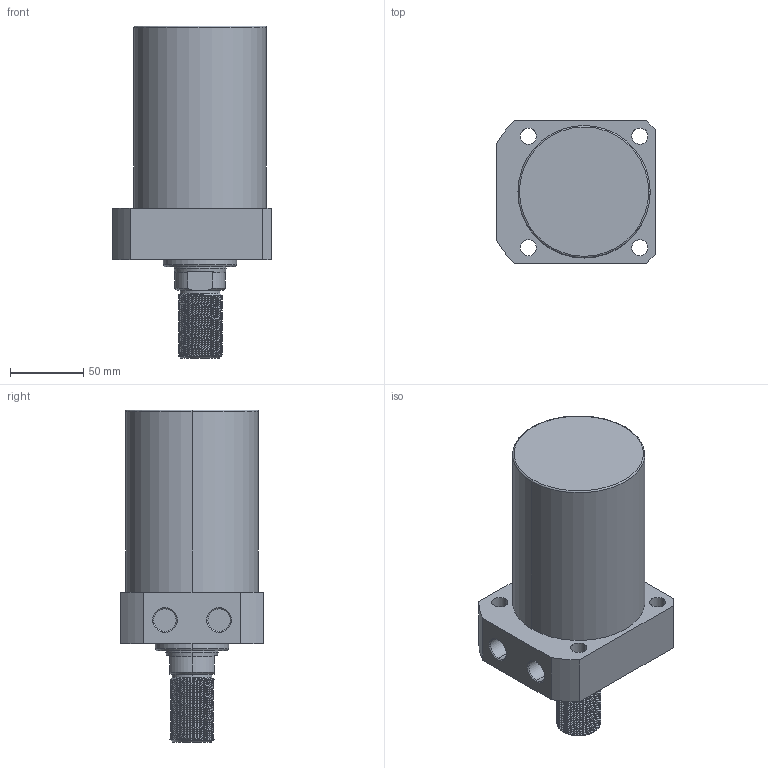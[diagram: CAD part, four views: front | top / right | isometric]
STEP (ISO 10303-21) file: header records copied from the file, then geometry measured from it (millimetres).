
FILE_DESCRIPTION (( 'STEP AP214' ), '1' );
FILE_NAME ('CLLR-090CT-080.STEP', '2020-01-10T01:50:20', ( 'Windows' ), ( 'Microsoft' ), 'SwSTEP 2.0', 'SolidWorks 2015', '' );
FILE_SCHEMA (( 'AUTOMOTIVE_DESIGN' ));
Length unit declared in the file: millimetre
Products named in the file (1): CLLR-090CT-080
Bounding box: 108 x 97 x 226 mm (x, y, z)
Volume: 1182775.7 mm3; surface area: 84005.1 mm2
Topology: 1 solids, 1 shells, 125 faces, 331 edges, 216 vertices
Faces by surface type: cylinder 85, plane 20, cone 16, torus 2, bspline 2
Entity records: 7034 total; most frequent: CARTESIAN_POINT 4138, ORIENTED_EDGE 662, DIRECTION 530, EDGE_CURVE 331, VERTEX_POINT 216, AXIS2_PLACEMENT_3D 204, EDGE_LOOP 141, ADVANCED_FACE 125
